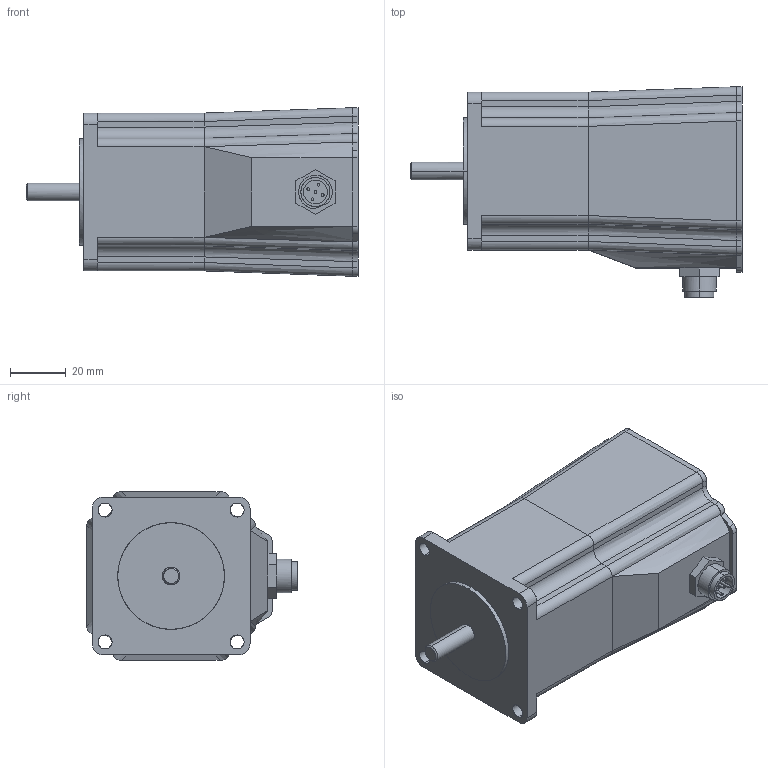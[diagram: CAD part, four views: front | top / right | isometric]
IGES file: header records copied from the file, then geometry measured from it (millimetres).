
Start section: Comment
Global section: file name: LT0088-12GB.igs; native system:  By UGS Corp.; preprocessor: XPlus GENERIC/IGES 3.0; author: Jørgen; organization: www.stream-design.com; date: 20071009.103411; units: millimetre
Bounding box: 118.6 x 75.15 x 60.2 mm (x, y, z)
Surface area: 29627.3 mm2 (no closed solid volume)
Topology: 0 solids, 0 shells, 142 faces, 716 edges, 716 vertices
Faces by surface type: bspline 142
